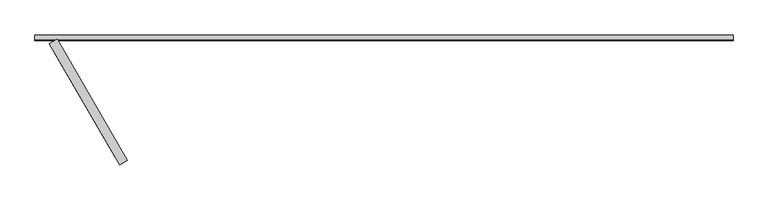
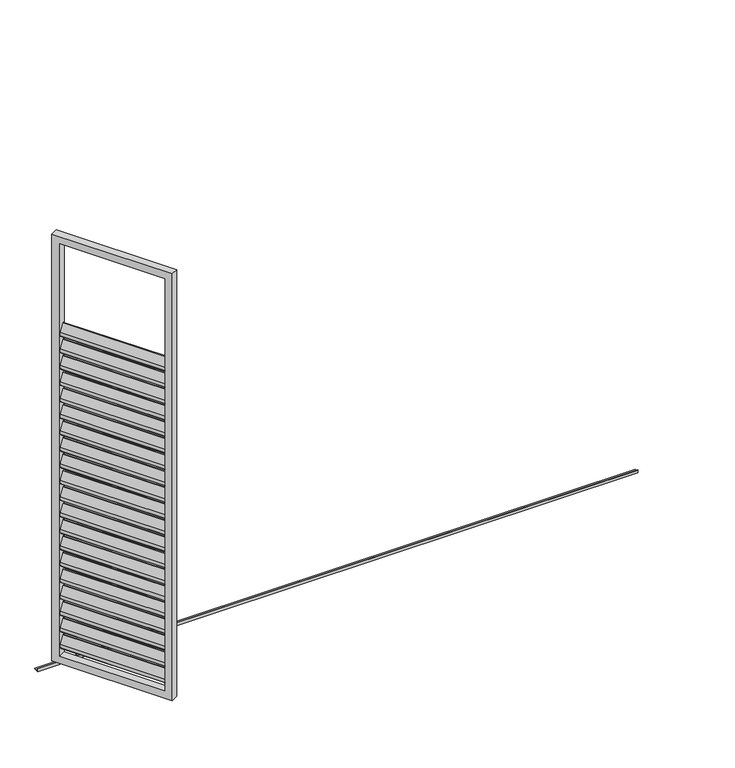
"""IFC4 building model written with IfcOpenShell, lengths in millimetres: proxy geometry, Renson_Amani_Loggia_Paro_Aluminium_Folding : Renson_Amani_Loggia_Paro_Aluminium_Folding."""

from ifc_helpers import new_model, si_unit, point, frame, frame_2d, origin, place, context, project, spatial, polyline, circle_curve, trimmed, segment, composite_curve, outline, extrude, source, transform, mapped, element, save


def generic_models_e878d195(model_context):
    return source(origin(), model_context, "Body", "SweptSolid", [
        extrude(outline(composite_curve([segment(polyline([(-44.0658831, 0.0), (0.8886405, 0.0), (17.0325667, -10.4839883)]), True, "CONTINUOUS"), segment(trimmed(circle_curve(frame_2d((15.3986496, -13.0)), 3.0), [point((17.0325667, -10.4839883))], [point((15.3986496, -16.0))], False, "CARTESIAN"), True, "CONTINUOUS"), segment(polyline([(15.3986496, -16.0), (-28.6672334, -16.0)]), True, "CONTINUOUS"), segment(trimmed(circle_curve(frame_2d((-28.6672334, -13.0)), 3.0), [point((-28.6672334, -16.0))], [point((-30.3011505, -15.5160117))], False, "CARTESIAN"), True, "CONTINUOUS"), segment(polyline([(-30.3011505, -15.5160117), (-45.6998002, -5.5160117)]), True, "CONTINUOUS"), segment(trimmed(circle_curve(frame_2d((-44.0658831, -3.0)), 3.0), [point((-45.6998002, -5.5160117))], [point((-44.0658831, 0.0))], False, "CARTESIAN"), True, "CONTINUOUS")], self_intersect=False)), frame((297.8274249, 37.7168064, 1857.3359298), z_axis=(-0.5000000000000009, 0.8660254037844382, 0.0), x_axis=(-0.47167124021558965, -0.27231951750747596, -0.8386705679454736)), (0.0, 0.0, 1.0), 545.0),
        extrude(outline(composite_curve([segment(polyline([(-44.0658831, 0.0), (0.8886405, 0.0), (17.0325667, -10.4839883)]), True, "CONTINUOUS"), segment(trimmed(circle_curve(frame_2d((15.3986496, -13.0)), 3.0), [point((17.0325667, -10.4839883))], [point((15.3986496, -16.0))], False, "CARTESIAN"), True, "CONTINUOUS"), segment(polyline([(15.3986496, -16.0), (-28.6672334, -16.0)]), True, "CONTINUOUS"), segment(trimmed(circle_curve(frame_2d((-28.6672334, -13.0)), 3.0), [point((-28.6672334, -16.0))], [point((-30.3011505, -15.5160117))], False, "CARTESIAN"), True, "CONTINUOUS"), segment(polyline([(-30.3011505, -15.5160117), (-45.6998002, -5.5160117)]), True, "CONTINUOUS"), segment(trimmed(circle_curve(frame_2d((-44.0658831, -3.0)), 3.0), [point((-45.6998002, -5.5160117))], [point((-44.0658831, 0.0))], False, "CARTESIAN"), True, "CONTINUOUS")], self_intersect=False)), frame((297.8274249, 37.7168064, 1767.3359298), z_axis=(-0.5000000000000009, 0.8660254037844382, 0.0), x_axis=(-0.47167124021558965, -0.27231951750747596, -0.8386705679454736)), (0.0, 0.0, 1.0), 545.0),
        extrude(outline(composite_curve([segment(polyline([(-44.0658831, 0.0), (0.8886405, 0.0), (17.0325667, -10.4839883)]), True, "CONTINUOUS"), segment(trimmed(circle_curve(frame_2d((15.3986496, -13.0)), 3.0), [point((17.0325667, -10.4839883))], [point((15.3986496, -16.0))], False, "CARTESIAN"), True, "CONTINUOUS"), segment(polyline([(15.3986496, -16.0), (-28.6672334, -16.0)]), True, "CONTINUOUS"), segment(trimmed(circle_curve(frame_2d((-28.6672334, -13.0)), 3.0), [point((-28.6672334, -16.0))], [point((-30.3011505, -15.5160117))], False, "CARTESIAN"), True, "CONTINUOUS"), segment(polyline([(-30.3011505, -15.5160117), (-45.6998002, -5.5160117)]), True, "CONTINUOUS"), segment(trimmed(circle_curve(frame_2d((-44.0658831, -3.0)), 3.0), [point((-45.6998002, -5.5160117))], [point((-44.0658831, 0.0))], False, "CARTESIAN"), True, "CONTINUOUS")], self_intersect=False)), frame((297.8274249, 37.7168064, 1677.3359298), z_axis=(-0.5000000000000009, 0.8660254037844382, 0.0), x_axis=(-0.47167124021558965, -0.27231951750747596, -0.8386705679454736)), (0.0, 0.0, 1.0), 545.0),
        extrude(outline(composite_curve([segment(polyline([(-44.0658831, 0.0), (0.8886405, 0.0), (17.0325667, -10.4839883)]), True, "CONTINUOUS"), segment(trimmed(circle_curve(frame_2d((15.3986496, -13.0)), 3.0), [point((17.0325667, -10.4839883))], [point((15.3986496, -16.0))], False, "CARTESIAN"), True, "CONTINUOUS"), segment(polyline([(15.3986496, -16.0), (-28.6672334, -16.0)]), True, "CONTINUOUS"), segment(trimmed(circle_curve(frame_2d((-28.6672334, -13.0)), 3.0), [point((-28.6672334, -16.0))], [point((-30.3011505, -15.5160117))], False, "CARTESIAN"), True, "CONTINUOUS"), segment(polyline([(-30.3011505, -15.5160117), (-45.6998002, -5.5160117)]), True, "CONTINUOUS"), segment(trimmed(circle_curve(frame_2d((-44.0658831, -3.0)), 3.0), [point((-45.6998002, -5.5160117))], [point((-44.0658831, 0.0))], False, "CARTESIAN"), True, "CONTINUOUS")], self_intersect=False)), frame((297.8274249, 37.7168064, 1587.3359298), z_axis=(-0.5000000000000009, 0.8660254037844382, 0.0), x_axis=(-0.47167124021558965, -0.27231951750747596, -0.8386705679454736)), (0.0, 0.0, 1.0), 545.0),
        extrude(outline(composite_curve([segment(polyline([(-44.0658831, 0.0), (0.8886405, 0.0), (17.0325667, -10.4839883)]), True, "CONTINUOUS"), segment(trimmed(circle_curve(frame_2d((15.3986496, -13.0)), 3.0), [point((17.0325667, -10.4839883))], [point((15.3986496, -16.0))], False, "CARTESIAN"), True, "CONTINUOUS"), segment(polyline([(15.3986496, -16.0), (-28.6672334, -16.0)]), True, "CONTINUOUS"), segment(trimmed(circle_curve(frame_2d((-28.6672334, -13.0)), 3.0), [point((-28.6672334, -16.0))], [point((-30.3011505, -15.5160117))], False, "CARTESIAN"), True, "CONTINUOUS"), segment(polyline([(-30.3011505, -15.5160117), (-45.6998002, -5.5160117)]), True, "CONTINUOUS"), segment(trimmed(circle_curve(frame_2d((-44.0658831, -3.0)), 3.0), [point((-45.6998002, -5.5160117))], [point((-44.0658831, 0.0))], False, "CARTESIAN"), True, "CONTINUOUS")], self_intersect=False)), frame((297.8274249, 37.7168064, 1497.3359298), z_axis=(-0.5000000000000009, 0.8660254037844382, 0.0), x_axis=(-0.47167124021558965, -0.27231951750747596, -0.8386705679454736)), (0.0, 0.0, 1.0), 545.0),
        extrude(outline(composite_curve([segment(polyline([(-44.0658831, 0.0), (0.8886405, 0.0), (17.0325667, -10.4839883)]), True, "CONTINUOUS"), segment(trimmed(circle_curve(frame_2d((15.3986496, -13.0)), 3.0), [point((17.0325667, -10.4839883))], [point((15.3986496, -16.0))], False, "CARTESIAN"), True, "CONTINUOUS"), segment(polyline([(15.3986496, -16.0), (-28.6672334, -16.0)]), True, "CONTINUOUS"), segment(trimmed(circle_curve(frame_2d((-28.6672334, -13.0)), 3.0), [point((-28.6672334, -16.0))], [point((-30.3011505, -15.5160117))], False, "CARTESIAN"), True, "CONTINUOUS"), segment(polyline([(-30.3011505, -15.5160117), (-45.6998002, -5.5160117)]), True, "CONTINUOUS"), segment(trimmed(circle_curve(frame_2d((-44.0658831, -3.0)), 3.0), [point((-45.6998002, -5.5160117))], [point((-44.0658831, 0.0))], False, "CARTESIAN"), True, "CONTINUOUS")], self_intersect=False)), frame((297.8274249, 37.7168064, 1407.3359298), z_axis=(-0.5000000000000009, 0.8660254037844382, 0.0), x_axis=(-0.47167124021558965, -0.27231951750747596, -0.8386705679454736)), (0.0, 0.0, 1.0), 545.0),
        extrude(outline(composite_curve([segment(polyline([(-44.0658831, 0.0), (0.8886405, 0.0), (17.0325667, -10.4839883)]), True, "CONTINUOUS"), segment(trimmed(circle_curve(frame_2d((15.3986496, -13.0)), 3.0), [point((17.0325667, -10.4839883))], [point((15.3986496, -16.0))], False, "CARTESIAN"), True, "CONTINUOUS"), segment(polyline([(15.3986496, -16.0), (-28.6672334, -16.0)]), True, "CONTINUOUS"), segment(trimmed(circle_curve(frame_2d((-28.6672334, -13.0)), 3.0), [point((-28.6672334, -16.0))], [point((-30.3011505, -15.5160117))], False, "CARTESIAN"), True, "CONTINUOUS"), segment(polyline([(-30.3011505, -15.5160117), (-45.6998002, -5.5160117)]), True, "CONTINUOUS"), segment(trimmed(circle_curve(frame_2d((-44.0658831, -3.0)), 3.0), [point((-45.6998002, -5.5160117))], [point((-44.0658831, 0.0))], False, "CARTESIAN"), True, "CONTINUOUS")], self_intersect=False)), frame((297.8274249, 37.7168064, 1317.3359298), z_axis=(-0.5000000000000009, 0.8660254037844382, 0.0), x_axis=(-0.47167124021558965, -0.27231951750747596, -0.8386705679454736)), (0.0, 0.0, 1.0), 545.0),
        extrude(outline(composite_curve([segment(polyline([(-44.0658831, 0.0), (0.8886405, 0.0), (17.0325667, -10.4839883)]), True, "CONTINUOUS"), segment(trimmed(circle_curve(frame_2d((15.3986496, -13.0)), 3.0), [point((17.0325667, -10.4839883))], [point((15.3986496, -16.0))], False, "CARTESIAN"), True, "CONTINUOUS"), segment(polyline([(15.3986496, -16.0), (-28.6672334, -16.0)]), True, "CONTINUOUS"), segment(trimmed(circle_curve(frame_2d((-28.6672334, -13.0)), 3.0), [point((-28.6672334, -16.0))], [point((-30.3011505, -15.5160117))], False, "CARTESIAN"), True, "CONTINUOUS"), segment(polyline([(-30.3011505, -15.5160117), (-45.6998002, -5.5160117)]), True, "CONTINUOUS"), segment(trimmed(circle_curve(frame_2d((-44.0658831, -3.0)), 3.0), [point((-45.6998002, -5.5160117))], [point((-44.0658831, 0.0))], False, "CARTESIAN"), True, "CONTINUOUS")], self_intersect=False)), frame((297.8274249, 37.7168064, 1227.3359298), z_axis=(-0.5000000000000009, 0.8660254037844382, 0.0), x_axis=(-0.47167124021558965, -0.27231951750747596, -0.8386705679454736)), (0.0, 0.0, 1.0), 545.0),
        extrude(outline(composite_curve([segment(polyline([(-44.0658831, 0.0), (0.8886405, 0.0), (17.0325667, -10.4839883)]), True, "CONTINUOUS"), segment(trimmed(circle_curve(frame_2d((15.3986496, -13.0)), 3.0), [point((17.0325667, -10.4839883))], [point((15.3986496, -16.0))], False, "CARTESIAN"), True, "CONTINUOUS"), segment(polyline([(15.3986496, -16.0), (-28.6672334, -16.0)]), True, "CONTINUOUS"), segment(trimmed(circle_curve(frame_2d((-28.6672334, -13.0)), 3.0), [point((-28.6672334, -16.0))], [point((-30.3011505, -15.5160117))], False, "CARTESIAN"), True, "CONTINUOUS"), segment(polyline([(-30.3011505, -15.5160117), (-45.6998002, -5.5160117)]), True, "CONTINUOUS"), segment(trimmed(circle_curve(frame_2d((-44.0658831, -3.0)), 3.0), [point((-45.6998002, -5.5160117))], [point((-44.0658831, 0.0))], False, "CARTESIAN"), True, "CONTINUOUS")], self_intersect=False)), frame((297.8274249, 37.7168064, 1137.3359298), z_axis=(-0.5000000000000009, 0.8660254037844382, 0.0), x_axis=(-0.47167124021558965, -0.27231951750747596, -0.8386705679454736)), (0.0, 0.0, 1.0), 545.0),
        extrude(outline(composite_curve([segment(polyline([(-44.0658831, 0.0), (0.8886405, 0.0), (17.0325667, -10.4839883)]), True, "CONTINUOUS"), segment(trimmed(circle_curve(frame_2d((15.3986496, -13.0)), 3.0), [point((17.0325667, -10.4839883))], [point((15.3986496, -16.0))], False, "CARTESIAN"), True, "CONTINUOUS"), segment(polyline([(15.3986496, -16.0), (-28.6672334, -16.0)]), True, "CONTINUOUS"), segment(trimmed(circle_curve(frame_2d((-28.6672334, -13.0)), 3.0), [point((-28.6672334, -16.0))], [point((-30.3011505, -15.5160117))], False, "CARTESIAN"), True, "CONTINUOUS"), segment(polyline([(-30.3011505, -15.5160117), (-45.6998002, -5.5160117)]), True, "CONTINUOUS"), segment(trimmed(circle_curve(frame_2d((-44.0658831, -3.0)), 3.0), [point((-45.6998002, -5.5160117))], [point((-44.0658831, 0.0))], False, "CARTESIAN"), True, "CONTINUOUS")], self_intersect=False)), frame((297.8274249, 37.7168064, 1047.3359298), z_axis=(-0.5000000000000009, 0.8660254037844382, 0.0), x_axis=(-0.47167124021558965, -0.27231951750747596, -0.8386705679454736)), (0.0, 0.0, 1.0), 545.0),
        extrude(outline(composite_curve([segment(polyline([(-44.0658831, 0.0), (0.8886405, 0.0), (17.0325667, -10.4839883)]), True, "CONTINUOUS"), segment(trimmed(circle_curve(frame_2d((15.3986496, -13.0)), 3.0), [point((17.0325667, -10.4839883))], [point((15.3986496, -16.0))], False, "CARTESIAN"), True, "CONTINUOUS"), segment(polyline([(15.3986496, -16.0), (-28.6672334, -16.0)]), True, "CONTINUOUS"), segment(trimmed(circle_curve(frame_2d((-28.6672334, -13.0)), 3.0), [point((-28.6672334, -16.0))], [point((-30.3011505, -15.5160117))], False, "CARTESIAN"), True, "CONTINUOUS"), segment(polyline([(-30.3011505, -15.5160117), (-45.6998002, -5.5160117)]), True, "CONTINUOUS"), segment(trimmed(circle_curve(frame_2d((-44.0658831, -3.0)), 3.0), [point((-45.6998002, -5.5160117))], [point((-44.0658831, 0.0))], False, "CARTESIAN"), True, "CONTINUOUS")], self_intersect=False)), frame((297.8274249, 37.7168064, 957.3359298), z_axis=(-0.5000000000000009, 0.8660254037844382, 0.0), x_axis=(-0.47167124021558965, -0.27231951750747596, -0.8386705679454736)), (0.0, 0.0, 1.0), 545.0),
        extrude(outline(composite_curve([segment(polyline([(-44.0658831, 0.0), (0.8886405, 0.0), (17.0325667, -10.4839883)]), True, "CONTINUOUS"), segment(trimmed(circle_curve(frame_2d((15.3986496, -13.0)), 3.0), [point((17.0325667, -10.4839883))], [point((15.3986496, -16.0))], False, "CARTESIAN"), True, "CONTINUOUS"), segment(polyline([(15.3986496, -16.0), (-28.6672334, -16.0)]), True, "CONTINUOUS"), segment(trimmed(circle_curve(frame_2d((-28.6672334, -13.0)), 3.0), [point((-28.6672334, -16.0))], [point((-30.3011505, -15.5160117))], False, "CARTESIAN"), True, "CONTINUOUS"), segment(polyline([(-30.3011505, -15.5160117), (-45.6998002, -5.5160117)]), True, "CONTINUOUS"), segment(trimmed(circle_curve(frame_2d((-44.0658831, -3.0)), 3.0), [point((-45.6998002, -5.5160117))], [point((-44.0658831, 0.0))], False, "CARTESIAN"), True, "CONTINUOUS")], self_intersect=False)), frame((297.8274249, 37.7168064, 867.3359298), z_axis=(-0.5000000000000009, 0.8660254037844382, 0.0), x_axis=(-0.47167124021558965, -0.27231951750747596, -0.8386705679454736)), (0.0, 0.0, 1.0), 545.0),
        extrude(outline(composite_curve([segment(polyline([(-44.0658831, 0.0), (0.8886405, 0.0), (17.0325667, -10.4839883)]), True, "CONTINUOUS"), segment(trimmed(circle_curve(frame_2d((15.3986496, -13.0)), 3.0), [point((17.0325667, -10.4839883))], [point((15.3986496, -16.0))], False, "CARTESIAN"), True, "CONTINUOUS"), segment(polyline([(15.3986496, -16.0), (-28.6672334, -16.0)]), True, "CONTINUOUS"), segment(trimmed(circle_curve(frame_2d((-28.6672334, -13.0)), 3.0), [point((-28.6672334, -16.0))], [point((-30.3011505, -15.5160117))], False, "CARTESIAN"), True, "CONTINUOUS"), segment(polyline([(-30.3011505, -15.5160117), (-45.6998002, -5.5160117)]), True, "CONTINUOUS"), segment(trimmed(circle_curve(frame_2d((-44.0658831, -3.0)), 3.0), [point((-45.6998002, -5.5160117))], [point((-44.0658831, 0.0))], False, "CARTESIAN"), True, "CONTINUOUS")], self_intersect=False)), frame((297.8274249, 37.7168064, 777.3359298), z_axis=(-0.5000000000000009, 0.8660254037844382, 0.0), x_axis=(-0.47167124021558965, -0.27231951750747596, -0.8386705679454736)), (0.0, 0.0, 1.0), 545.0),
        extrude(outline(composite_curve([segment(polyline([(-44.0658831, 0.0), (0.8886405, 0.0), (17.0325667, -10.4839883)]), True, "CONTINUOUS"), segment(trimmed(circle_curve(frame_2d((15.3986496, -13.0)), 3.0), [point((17.0325667, -10.4839883))], [point((15.3986496, -16.0))], False, "CARTESIAN"), True, "CONTINUOUS"), segment(polyline([(15.3986496, -16.0), (-28.6672334, -16.0)]), True, "CONTINUOUS"), segment(trimmed(circle_curve(frame_2d((-28.6672334, -13.0)), 3.0), [point((-28.6672334, -16.0))], [point((-30.3011505, -15.5160117))], False, "CARTESIAN"), True, "CONTINUOUS"), segment(polyline([(-30.3011505, -15.5160117), (-45.6998002, -5.5160117)]), True, "CONTINUOUS"), segment(trimmed(circle_curve(frame_2d((-44.0658831, -3.0)), 3.0), [point((-45.6998002, -5.5160117))], [point((-44.0658831, 0.0))], False, "CARTESIAN"), True, "CONTINUOUS")], self_intersect=False)), frame((297.8274249, 37.7168064, 687.3359298), z_axis=(-0.5000000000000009, 0.8660254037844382, 0.0), x_axis=(-0.47167124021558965, -0.27231951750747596, -0.8386705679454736)), (0.0, 0.0, 1.0), 545.0),
        extrude(outline(composite_curve([segment(polyline([(-44.0658831, 0.0), (0.8886405, 0.0), (17.0325667, -10.4839883)]), True, "CONTINUOUS"), segment(trimmed(circle_curve(frame_2d((15.3986496, -13.0)), 3.0), [point((17.0325667, -10.4839883))], [point((15.3986496, -16.0))], False, "CARTESIAN"), True, "CONTINUOUS"), segment(polyline([(15.3986496, -16.0), (-28.6672334, -16.0)]), True, "CONTINUOUS"), segment(trimmed(circle_curve(frame_2d((-28.6672334, -13.0)), 3.0), [point((-28.6672334, -16.0))], [point((-30.3011505, -15.5160117))], False, "CARTESIAN"), True, "CONTINUOUS"), segment(polyline([(-30.3011505, -15.5160117), (-45.6998002, -5.5160117)]), True, "CONTINUOUS"), segment(trimmed(circle_curve(frame_2d((-44.0658831, -3.0)), 3.0), [point((-45.6998002, -5.5160117))], [point((-44.0658831, 0.0))], False, "CARTESIAN"), True, "CONTINUOUS")], self_intersect=False)), frame((297.8274249, 37.7168064, 597.3359298), z_axis=(-0.5000000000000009, 0.8660254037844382, 0.0), x_axis=(-0.47167124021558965, -0.27231951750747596, -0.8386705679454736)), (0.0, 0.0, 1.0), 545.0),
        extrude(outline(composite_curve([segment(polyline([(-44.0658831, 0.0), (0.8886405, 0.0), (17.0325667, -10.4839883)]), True, "CONTINUOUS"), segment(trimmed(circle_curve(frame_2d((15.3986496, -13.0)), 3.0), [point((17.0325667, -10.4839883))], [point((15.3986496, -16.0))], False, "CARTESIAN"), True, "CONTINUOUS"), segment(polyline([(15.3986496, -16.0), (-28.6672334, -16.0)]), True, "CONTINUOUS"), segment(trimmed(circle_curve(frame_2d((-28.6672334, -13.0)), 3.0), [point((-28.6672334, -16.0))], [point((-30.3011505, -15.5160117))], False, "CARTESIAN"), True, "CONTINUOUS"), segment(polyline([(-30.3011505, -15.5160117), (-45.6998002, -5.5160117)]), True, "CONTINUOUS"), segment(trimmed(circle_curve(frame_2d((-44.0658831, -3.0)), 3.0), [point((-45.6998002, -5.5160117))], [point((-44.0658831, 0.0))], False, "CARTESIAN"), True, "CONTINUOUS")], self_intersect=False)), frame((297.8274249, 37.7168064, 507.3359298), z_axis=(-0.5000000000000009, 0.8660254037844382, 0.0), x_axis=(-0.47167124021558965, -0.27231951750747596, -0.8386705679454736)), (0.0, 0.0, 1.0), 545.0),
        extrude(outline(composite_curve([segment(polyline([(-44.0658831, 0.0), (0.8886405, 0.0), (17.0325667, -10.4839883)]), True, "CONTINUOUS"), segment(trimmed(circle_curve(frame_2d((15.3986496, -13.0)), 3.0), [point((17.0325667, -10.4839883))], [point((15.3986496, -16.0))], False, "CARTESIAN"), True, "CONTINUOUS"), segment(polyline([(15.3986496, -16.0), (-28.6672334, -16.0)]), True, "CONTINUOUS"), segment(trimmed(circle_curve(frame_2d((-28.6672334, -13.0)), 3.0), [point((-28.6672334, -16.0))], [point((-30.3011505, -15.5160117))], False, "CARTESIAN"), True, "CONTINUOUS"), segment(polyline([(-30.3011505, -15.5160117), (-45.6998002, -5.5160117)]), True, "CONTINUOUS"), segment(trimmed(circle_curve(frame_2d((-44.0658831, -3.0)), 3.0), [point((-45.6998002, -5.5160117))], [point((-44.0658831, 0.0))], False, "CARTESIAN"), True, "CONTINUOUS")], self_intersect=False)), frame((297.8274249, 37.7168064, 417.3359298), z_axis=(-0.5000000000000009, 0.8660254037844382, 0.0), x_axis=(-0.47167124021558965, -0.27231951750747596, -0.8386705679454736)), (0.0, 0.0, 1.0), 545.0),
        extrude(outline(composite_curve([segment(polyline([(-44.0658831, 0.0), (0.8886405, 0.0), (17.0325667, -10.4839883)]), True, "CONTINUOUS"), segment(trimmed(circle_curve(frame_2d((15.3986496, -13.0)), 3.0), [point((17.0325667, -10.4839883))], [point((15.3986496, -16.0))], False, "CARTESIAN"), True, "CONTINUOUS"), segment(polyline([(15.3986496, -16.0), (-28.6672334, -16.0)]), True, "CONTINUOUS"), segment(trimmed(circle_curve(frame_2d((-28.6672334, -13.0)), 3.0), [point((-28.6672334, -16.0))], [point((-30.3011505, -15.5160117))], False, "CARTESIAN"), True, "CONTINUOUS"), segment(polyline([(-30.3011505, -15.5160117), (-45.6998002, -5.5160117)]), True, "CONTINUOUS"), segment(trimmed(circle_curve(frame_2d((-44.0658831, -3.0)), 3.0), [point((-45.6998002, -5.5160117))], [point((-44.0658831, 0.0))], False, "CARTESIAN"), True, "CONTINUOUS")], self_intersect=False)), frame((297.8274249, 37.7168064, 327.3359298), z_axis=(-0.5000000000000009, 0.8660254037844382, 0.0), x_axis=(-0.47167124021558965, -0.27231951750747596, -0.8386705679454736)), (0.0, 0.0, 1.0), 545.0),
        extrude(outline(composite_curve([segment(polyline([(-44.0658831, 0.0), (0.8886405, 0.0), (17.0325667, -10.4839883)]), True, "CONTINUOUS"), segment(trimmed(circle_curve(frame_2d((15.3986496, -13.0)), 3.0), [point((17.0325667, -10.4839883))], [point((15.3986496, -16.0))], False, "CARTESIAN"), True, "CONTINUOUS"), segment(polyline([(15.3986496, -16.0), (-28.6672334, -16.0)]), True, "CONTINUOUS"), segment(trimmed(circle_curve(frame_2d((-28.6672334, -13.0)), 3.0), [point((-28.6672334, -16.0))], [point((-30.3011505, -15.5160117))], False, "CARTESIAN"), True, "CONTINUOUS"), segment(polyline([(-30.3011505, -15.5160117), (-45.6998002, -5.5160117)]), True, "CONTINUOUS"), segment(trimmed(circle_curve(frame_2d((-44.0658831, -3.0)), 3.0), [point((-45.6998002, -5.5160117))], [point((-44.0658831, 0.0))], False, "CARTESIAN"), True, "CONTINUOUS")], self_intersect=False)), frame((297.8274249, 37.7168064, 237.3359298), z_axis=(-0.5000000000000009, 0.8660254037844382, 0.0), x_axis=(-0.47167124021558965, -0.27231951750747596, -0.8386705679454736)), (0.0, 0.0, 1.0), 545.0),
        extrude(outline(composite_curve([segment(polyline([(-44.0658831, 0.0), (0.8886405, 0.0), (17.0325667, -10.4839883)]), True, "CONTINUOUS"), segment(trimmed(circle_curve(frame_2d((15.3986496, -13.0)), 3.0), [point((17.0325667, -10.4839883))], [point((15.3986496, -16.0))], False, "CARTESIAN"), True, "CONTINUOUS"), segment(polyline([(15.3986496, -16.0), (-28.6672334, -16.0)]), True, "CONTINUOUS"), segment(trimmed(circle_curve(frame_2d((-28.6672334, -13.0)), 3.0), [point((-28.6672334, -16.0))], [point((-30.3011505, -15.5160117))], False, "CARTESIAN"), True, "CONTINUOUS"), segment(polyline([(-30.3011505, -15.5160117), (-45.6998002, -5.5160117)]), True, "CONTINUOUS"), segment(trimmed(circle_curve(frame_2d((-44.0658831, -3.0)), 3.0), [point((-45.6998002, -5.5160117))], [point((-44.0658831, 0.0))], False, "CARTESIAN"), True, "CONTINUOUS")], self_intersect=False)), frame((297.8274249, 37.7168064, 147.3359298), z_axis=(-0.5000000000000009, 0.8660254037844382, 0.0), x_axis=(-0.47167124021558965, -0.27231951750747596, -0.8386705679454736)), (0.0, 0.0, 1.0), 545.0),
        extrude(outline(polyline([(2300.0, -40.0), (-40.0, -40.0), (-40.0, 585.0), (2300.0, 585.0), (2300.0, -40.0)]), holes=[polyline([(2260.0, 544.9999999), (0.0, 544.9999999), (0.0, 0.0), (2260.0, 0.0), (2260.0, 544.9999999)])]), frame((20.0, 506.6248612, 85.0), z_axis=(0.8660254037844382, 0.5000000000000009, 0.0), x_axis=(0.0, 0.0, 1.0)), (0.0, 0.0, 1.0), 40.0),
        extrude(outline(polyline([(555.2658774, 15.0), (558.2658774, 15.0), (558.2658774, 3.0), (581.2658774, 3.0), (581.2658774, 0.0), (555.2658774, 0.0), (555.2658774, 15.0)])), frame((-64.9505096, 0.0, 0.0), z_axis=(1.0, 0.0, 0.0), x_axis=(0.0, 1.0, 0.0)), (0.0, 0.0, 1.0), 3114.9505096),
    ])


if __name__ == "__main__":
    model = new_model("IFC4")
    model_context = context("Model", 3, world=origin())
    ifc_project = project(units=[si_unit("LENGTHUNIT", "METRE", prefix="MILLI")], contexts=[model_context])
    site = spatial("IfcSite", under=ifc_project)
    building = spatial("IfcBuilding", under=site)
    placement = place(None, origin())
    generic_models_shape = generic_models_e878d195(model_context)
    element("IfcBuildingElementProxy", 1, Name="Renson_Amani_Loggia_Paro_Aluminium_Folding : Renson_Amani_Loggia_Paro_Aluminium_Folding", ObjectType="Renson_Amani_Loggia_Paro_Aluminium_Folding : Renson_Amani_Loggia_Paro_Aluminium_Folding", at=placement, inside=building, context=model_context, shape_type="MappedRepresentation", body=[
        mapped(generic_models_shape, transform((0.0, 0.0, 0.0), x_axis=(1.0, 0.0, 0.0), y_axis=(0.0, 1.0, 0.0), z_axis=(0.0, 0.0, 1.0))),
    ])
    save(model, "model.ifc")
